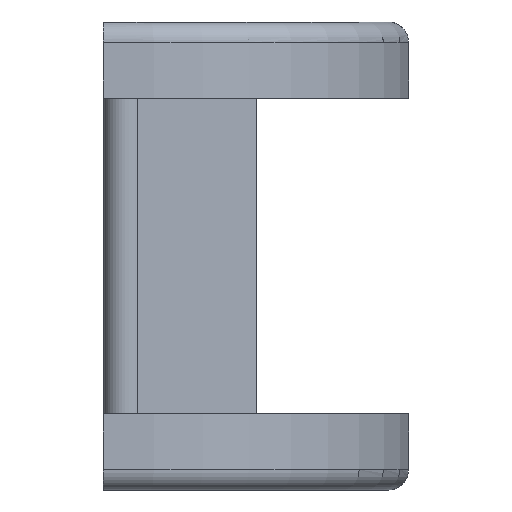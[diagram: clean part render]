
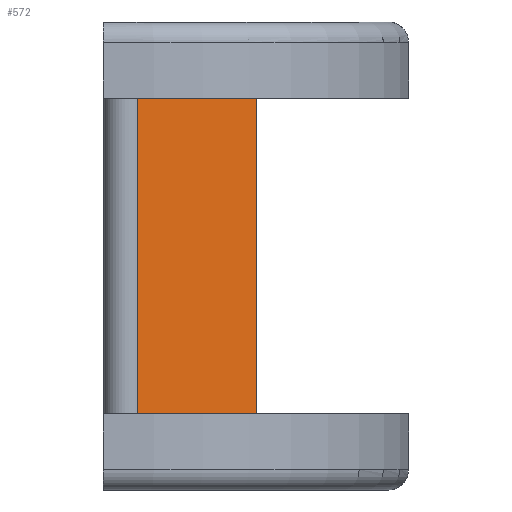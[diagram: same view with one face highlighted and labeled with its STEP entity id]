
A CAD part, front view. The second image highlights one B-rep face of the part: STEP entity #572.
In plain terms, the highlighted planar face has unit normal (0.676, -0.737, 0).
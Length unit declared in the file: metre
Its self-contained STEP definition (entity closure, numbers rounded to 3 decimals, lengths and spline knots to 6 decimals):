
#55=LINE('',#914,#105);
#66=LINE('',#943,#116);
#67=LINE('',#946,#117);
#68=LINE('',#947,#118);
#105=VECTOR('',#727,1.);
#116=VECTOR('',#754,1.);
#117=VECTOR('',#755,1.);
#118=VECTOR('',#756,1.);
#196=ORIENTED_EDGE('',*,*,#339,.F.);
#197=ORIENTED_EDGE('',*,*,#340,.T.);
#198=ORIENTED_EDGE('',*,*,#324,.T.);
#199=ORIENTED_EDGE('',*,*,#341,.F.);
#324=EDGE_CURVE('',#399,#398,#55,.T.);
#339=EDGE_CURVE('',#409,#410,#66,.T.);
#340=EDGE_CURVE('',#409,#399,#67,.T.);
#341=EDGE_CURVE('',#410,#398,#68,.T.);
#398=VERTEX_POINT('',#913);
#399=VERTEX_POINT('',#915);
#409=VERTEX_POINT('',#944);
#410=VERTEX_POINT('',#945);
#467=EDGE_LOOP('',(#196,#197,#198,#199));
#513=FACE_BOUND('',#467,.T.);
#554=PLANE('',#631);
#572=ADVANCED_FACE('',(#513),#554,.F.);
#631=AXIS2_PLACEMENT_3D('',#942,#752,#753);
#727=DIRECTION('',(0.737,0.676,0.));
#752=DIRECTION('',(-0.676,0.737,0.));
#753=DIRECTION('',(-0.737,-0.676,0.));
#754=DIRECTION('',(0.737,0.676,0.));
#755=DIRECTION('',(0.,0.,-1.));
#756=DIRECTION('',(0.,0.,-1.));
#913=CARTESIAN_POINT('',(0.,-0.043656,0.));
#914=CARTESIAN_POINT('',(-0.004763,-0.048022,0.));
#915=CARTESIAN_POINT('',(-0.007397,-0.050437,0.));
#942=CARTESIAN_POINT('',(-0.004763,-0.048022,0.019688));
#943=CARTESIAN_POINT('',(-0.004763,-0.048022,0.019688));
#944=CARTESIAN_POINT('',(-0.007397,-0.050437,0.019688));
#945=CARTESIAN_POINT('',(0.,-0.043656,0.019688));
#946=CARTESIAN_POINT('',(-0.007397,-0.050437,0.019688));
#947=CARTESIAN_POINT('',(0.,-0.043656,0.019688));
